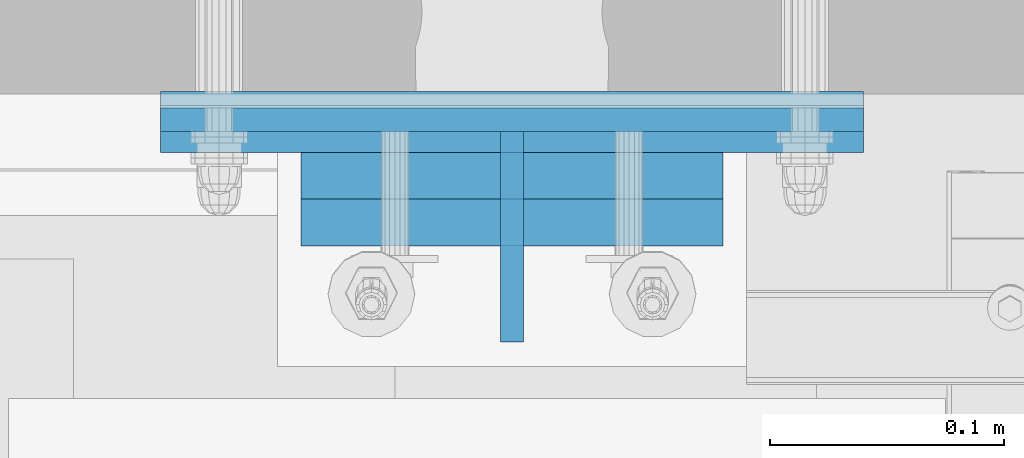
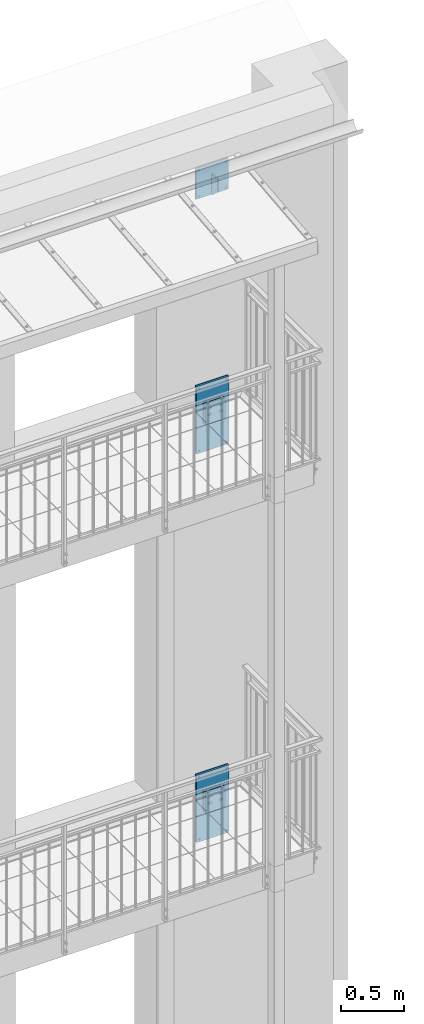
# One storey, part 65 of 162: 10 plates, 54 openings.
"""IFC2X3 building model written with IfcOpenShell, lengths in millimetres."""

import ifcopenshell
import ifcopenshell.guid

model = None  # the IFC model being written
_history = None  # IfcOwnerHistory: only IFC2X3 demands one
_inside = {}  # id of a spatial element -> (the spatial element, [elements in it])
_under = {}  # id of a project, library or spatial element -> (it, [spatial elements below it])
_declared = {}  # id of a project -> (the project, [libraries it declares])
_typed = {}  # id of a type object -> (the type object, [elements of that type])
_made_of = {}  # id of a material, layer set ... -> (it, [elements and type objects made of it])


def new_model(schema):
    """Start an empty IFC model of exactly this schema.

    Asked for "IFC4X3", IfcOpenShell would pick the latest addendum, in which some entities
    have other attributes; the version numbers below select the first issue.
    IFC2X3 requires an IfcOwnerHistory on every rooted entity: one is made here for all.
    """
    global model, _history
    if schema == "IFC4X3":
        model = ifcopenshell.file(schema_version=(4, 3, 0, 0))
    else:
        model = ifcopenshell.file(schema=schema)
    _inside.clear()
    _under.clear()
    _declared.clear()
    _typed.clear()
    _made_of.clear()
    _history = None
    if model.schema == "IFC2X3":
        org = make("IfcOrganization", Name="unknown")
        user = make(
            "IfcPersonAndOrganization",
            ThePerson=make("IfcPerson", FamilyName="unknown"),
            TheOrganization=org,
        )
        app = make(
            "IfcApplication",
            ApplicationDeveloper=org,
            Version="unknown",
            ApplicationFullName="unknown",
            ApplicationIdentifier="unknown",
        )
        _history = make(
            "IfcOwnerHistory",
            OwningUser=user,
            OwningApplication=app,
            ChangeAction="ADDED",
            CreationDate=0,
        )
    return model


def make(cls, **values):
    """One entity of the class cls with the attributes given. An attribute that is None is left unset."""
    return model.create_entity(
        cls, **{name: value for name, value in values.items() if value is not None}
    )


def entity(cls, *values):
    """Any entity or typed value of the class cls, its attributes in the order of the schema. None: left unset."""
    e = model.create_entity(cls)
    for i, value in enumerate(values):
        if value is not None:
            e[i] = value
    return e


def rooted(cls, **values):
    """An entity with a GlobalId (a new one), such as an element, a storey or a relation."""
    return make(cls, GlobalId=ifcopenshell.guid.new(), OwnerHistory=_history, **values)


def si_unit(unit_type, name, prefix=None):
    """IfcSIUnit, for example si_unit("LENGTHUNIT", "METRE", prefix="MILLI")."""
    return make("IfcSIUnit", UnitType=unit_type, Prefix=prefix, Name=name)


def converted_unit(unit_type, name, factor, base, dimensions=None, offset=None):
    """IfcConversionBasedUnit, such as the inch: factor (a typed value) times the base unit."""
    return make(
        "IfcConversionBasedUnit"
        if offset is None
        else "IfcConversionBasedUnitWithOffset",
        ConversionOffset=offset,
        Dimensions=None
        if dimensions is None
        else entity("IfcDimensionalExponents", *dimensions),
        UnitType=unit_type,
        Name=name,
        ConversionFactor=make(
            "IfcMeasureWithUnit", ValueComponent=factor, UnitComponent=base
        ),
    )


def assignment(units):
    """IfcUnitAssignment: the units of a project."""
    return None if units is None else make("IfcUnitAssignment", Units=units)


def point(xyz):
    """IfcCartesianPoint."""
    return None if xyz is None else make("IfcCartesianPoint", Coordinates=xyz)


def direction(xyz):
    """IfcDirection."""
    return None if xyz is None else make("IfcDirection", DirectionRatios=xyz)


def frame(location, z_axis=None, x_axis=None):
    """IfcAxis2Placement3D, a coordinate frame: its origin and axes. An axis left out is left unset."""
    return make(
        "IfcAxis2Placement3D",
        Location=point(location),
        Axis=direction(z_axis),
        RefDirection=direction(x_axis),
    )


def frame_2d(location, x_axis=None):
    """IfcAxis2Placement2D, a coordinate frame in the plane: its origin and x axis."""
    return make(
        "IfcAxis2Placement2D", Location=point(location), RefDirection=direction(x_axis)
    )


def origin():
    """The frame at (0, 0, 0) with its axes left unset."""
    return frame((0.0, 0.0, 0.0))


def origin_with_axes():
    """The frame at (0, 0, 0) with the z axis (0, 0, 1) and the x axis (1, 0, 0) written out."""
    return frame((0.0, 0.0, 0.0), z_axis=(0.0, 0.0, 1.0), x_axis=(1.0, 0.0, 0.0))


def place(relative_to, where):
    """IfcLocalPlacement: puts the frame where relative to a parent placement (None: the world)."""
    return make(
        "IfcLocalPlacement", PlacementRelTo=relative_to, RelativePlacement=where
    )


def context(
    kind, dimensions, precision=None, world=None, true_north=None, identifier=None
):
    """IfcGeometricRepresentationContext, for example the 3D "Model" context."""
    return make(
        "IfcGeometricRepresentationContext",
        ContextIdentifier=identifier,
        ContextType=kind,
        CoordinateSpaceDimension=dimensions,
        Precision=precision,
        WorldCoordinateSystem=world,
        TrueNorth=true_north,
    )


def project(units=None, contexts=None):
    """IfcProject with its units and contexts."""
    return rooted(
        "IfcProject",
        Name="project",
        RepresentationContexts=contexts,
        UnitsInContext=assignment(units),
    )


def spatial(cls, under=None, at=None, **own):
    """A site, building, storey or space (cls), placed at a placement, below another one or the project."""
    s = rooted(cls, ObjectPlacement=at, **own)
    if under is not None:
        _under.setdefault(under.id(), (under, []))[1].append(s)
    return s


def polyline(points):
    """IfcPolyline through the points."""
    return make("IfcPolyline", Points=[point(p) for p in points])


def circle_curve(where, radius):
    """IfcCircle in the frame where."""
    return make("IfcCircle", Position=where, Radius=radius)


def line_curve(start, along, magnitude):
    """IfcLine from a point along a vector."""
    return make(
        "IfcLine",
        Pnt=point(start),
        Dir=make("IfcVector", Orientation=direction(along), Magnitude=magnitude),
    )


def trimmed(basis, trim1, trim2, sense, master):
    """IfcTrimmedCurve: the piece of a basis curve between two trims."""
    return make(
        "IfcTrimmedCurve",
        BasisCurve=basis,
        Trim1=trim1,
        Trim2=trim2,
        SenseAgreement=sense,
        MasterRepresentation=master,
    )


def segment(curve, same_sense, transition):
    """IfcCompositeCurveSegment."""
    return make(
        "IfcCompositeCurveSegment",
        Transition=transition,
        SameSense=same_sense,
        ParentCurve=curve,
    )


def composite_curve(segments, self_intersect=None):
    """IfcCompositeCurve: segments joined end to end."""
    return make("IfcCompositeCurve", Segments=segments, SelfIntersect=self_intersect)


def profile(cls, at=None, kind="AREA", **sizes):
    """A parametric profile (cls). Its sizes go by their IFC names, for example OverallWidth=200.0."""
    return make(cls, ProfileType=kind, Position=at, **sizes)


def circle(**sizes):
    """IfcCircleProfileDef."""
    return profile("IfcCircleProfileDef", **sizes)


def outline(outer, holes=None, kind="AREA"):
    """IfcArbitraryClosedProfileDef: a profile drawn as a closed curve; with holes, ...WithVoids."""
    if holes is None:
        return make("IfcArbitraryClosedProfileDef", ProfileType=kind, OuterCurve=outer)
    return make(
        "IfcArbitraryProfileDefWithVoids",
        ProfileType=kind,
        OuterCurve=outer,
        InnerCurves=holes,
    )


def extrude(swept, where, along, depth):
    """IfcExtrudedAreaSolid: the profile swept, set in the frame where, extruded along a direction by depth."""
    return make(
        "IfcExtrudedAreaSolid",
        SweptArea=swept,
        Position=where,
        ExtrudedDirection=direction(along),
        Depth=depth,
    )


def shape(context_of_items, identifier, shape_type, items):
    """IfcShapeRepresentation: the items that make up one representation, for example the "Body"."""
    return make(
        "IfcShapeRepresentation",
        ContextOfItems=context_of_items,
        RepresentationIdentifier=identifier,
        RepresentationType=shape_type,
        Items=items,
    )


def material(Name=None, Category=None):
    """IfcMaterial."""
    return make("IfcMaterial", Name=Name, Category=Category)


def layer(
    of_material, thickness, ventilated=None, Name=None, Category=None, Priority=None
):
    """IfcMaterialLayer: one layer of a wall or slab, of a material (None: an air gap)."""
    return make(
        "IfcMaterialLayer",
        Material=of_material,
        LayerThickness=thickness,
        IsVentilated=ventilated,
        Name=Name,
        Category=Category,
        Priority=Priority,
    )


def layer_set(layers, Name=None):
    """IfcMaterialLayerSet."""
    return make("IfcMaterialLayerSet", MaterialLayers=layers, LayerSetName=Name)


def made_of(thing, what):
    """Note that an element or type object is made of a material, layer set ...; save() writes the relation."""
    if what is not None:
        _made_of.setdefault(what.id(), (what, []))[1].append(thing)
    return thing


def element(
    cls,
    number,
    at=None,
    inside=None,
    cuts=None,
    type_object=None,
    material=None,
    context=None,
    identifier="Body",
    shape_type=None,
    held_by="IfcProductDefinitionShape",
    body=None,
    shapes=None,
    **own,
):
    """One element of the class cls, such as IfcWall. Its Tag is "e" and its number.

    at: its placement. inside: the storey or other place that contains it. cuts: it is an
    opening in that element (IfcRelVoidsElement). A single representation is given by context,
    identifier, shape_type and body (its items); several are given by shapes. held_by: the class
    of the entity that holds the representations. save() writes the other relations.
    """
    e = rooted(cls, Tag="e%d" % number, ObjectPlacement=at, **own)
    if body is not None:
        shapes = [shape(context, identifier, shape_type, body)]
    if shapes is not None:
        e.Representation = make(held_by, Representations=shapes)
    if inside is not None:
        _inside.setdefault(inside.id(), (inside, []))[1].append(e)
    if cuts is not None:
        rooted(
            "IfcRelVoidsElement", RelatingBuildingElement=cuts, RelatedOpeningElement=e
        )
    if type_object is not None:
        _typed.setdefault(type_object.id(), (type_object, []))[1].append(e)
    return made_of(e, material)


def aggregate(whole, parts):
    """IfcRelAggregates: a whole, such as a stair, and the parts it consists of."""
    return rooted("IfcRelAggregates", RelatingObject=whole, RelatedObjects=parts)


def save(model, path):
    """Write the relations noted so far, then the file.

    IfcRelAggregates (storeys below a building ...), IfcRelContainedInSpatialStructure (elements
    in a storey), IfcRelDefinesByType, IfcRelAssociatesMaterial and IfcRelDeclares: one each for
    every whole, place, type object, material and project.
    """
    for whole, parts in _under.values():
        aggregate(whole, parts)
    for where, things in _inside.values():
        rooted(
            "IfcRelContainedInSpatialStructure",
            RelatedElements=things,
            RelatingStructure=where,
        )
    for kind, things in _typed.values():
        rooted("IfcRelDefinesByType", RelatedObjects=things, RelatingType=kind)
    for what, things in _made_of.values():
        rooted("IfcRelAssociatesMaterial", RelatedObjects=things, RelatingMaterial=what)
    for by, libraries in _declared.values():
        rooted("IfcRelDeclares", RelatingContext=by, RelatedDefinitions=libraries)
    model.write(path)


model = new_model("IFC2X3")

# Units and contexts
model_context = context("Model", 3, precision=1e-09, world=origin_with_axes())
ifc_project = project(units=[si_unit("LENGTHUNIT", "METRE", prefix="MILLI"), si_unit("AREAUNIT", "SQUARE_METRE"), si_unit("VOLUMEUNIT", "CUBIC_METRE"), converted_unit("PLANEANGLEUNIT", "DEGREE", entity("IfcPlaneAngleMeasure", 0.01745329), si_unit("PLANEANGLEUNIT", "RADIAN"), dimensions=[0, 0, 0, 0, 0, 0, 0])], contexts=[model_context])

# Site, building, storey
site_placement = place(None, origin_with_axes())
site = spatial("IfcSite", under=ifc_project, at=site_placement, Name="Hermannstra?e 1a, 60318 Frankfurt", CompositionType="ELEMENT")
building_placement = place(site_placement, origin_with_axes())
building = spatial("IfcBuilding", under=site, at=building_placement, Name="Struktur 1", CompositionType="ELEMENT")
storey_placement = place(building_placement, origin_with_axes())
storey = spatial("IfcBuildingStorey", under=building, at=storey_placement, Name="Default Storey", CompositionType="ELEMENT", Elevation=0.0)

# Plate, openings
ifc_material_1 = material(Name="S235JR")
ifc_layer_1 = layer(ifc_material_1, 10.0)
ifc_layer_set_1 = layer_set([ifc_layer_1], Name="S235JR")
plate_1_placement = place(None, frame((5578.309364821, 2674.609373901, 17294.041049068), z_axis=(1.0, 0.0, 0.0), x_axis=(0.0, 1.0, 0.0)))
plate_1 = element("IfcPlate", 1, at=plate_1_placement, inside=storey, material=ifc_layer_set_1, Name="-", ObjectType="-", context=model_context, shape_type="SweptSolid", body=[
    extrude(outline(polyline([(-45.0, -102.042049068), (45.0, -102.042049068), (45.0, 102.042049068), (-45.0, 92.582667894), (-45.0, -102.042049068)])), origin_with_axes(), (0.0, 0.0, -1.0), 10.0),
])
opening_1_placement = place(plate_1_placement, frame((-45.0, -102.042049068, 0.01), z_axis=(0.0, 0.0, 1.0), x_axis=(1.0, 0.0, 0.0)))
element("IfcOpeningElement", 2, at=opening_1_placement, cuts=plate_1, ObjectType="Opening", context=model_context, shape_type="SweptSolid", body=[
    extrude(outline(polyline([(0.0, 0.0), (80.0, 0.0), (0.0, 80.0), (0.0, 0.0)])), origin(), (0.0, 0.0, -1.0), 10.02),
])
opening_2_placement = place(plate_1_placement, frame((27.999, 90.042049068, 0.5), z_axis=(0.0, 0.0, 1.0), x_axis=(1.0, 0.0, 0.0)))
element("IfcOpeningElement", 3, at=opening_2_placement, cuts=plate_1, ObjectType="Opening", context=model_context, shape_type="SweptSolid", body=[
    extrude(circle(Radius=6.001, at=frame_2d((6.001, 0.0), x_axis=(1.0, 0.0))), origin(), (0.0, 0.0, -1.0), 11.0),
])

plate_2_placement = place(None, frame((5573.309364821, 2729.609373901, 17341.999), z_axis=(0.0, 1.0, 0.0), x_axis=(-1.0, 0.0, 0.0)))
plate_2 = element("IfcPlate", 4, at=plate_2_placement, inside=storey, material=ifc_layer_set_1, Name="-", ObjectType="-", context=model_context, shape_type="SweptSolid", body=[
    extrude(outline(polyline([(-150.0, -150.0), (150.0, -150.0), (150.0, 150.0), (-150.0, 150.0), (-150.0, -150.0)])), origin_with_axes(), (0.0, 0.0, -1.0), 10.0),
])
opening_3_placement = place(plate_2_placement, frame((116.999, 125.0, 0.5), z_axis=(0.0, 0.0, 1.0), x_axis=(1.0, 0.0, 0.0)))
element("IfcOpeningElement", 5, at=opening_3_placement, cuts=plate_2, ObjectType="Opening", context=model_context, shape_type="SweptSolid", body=[
    extrude(circle(Radius=8.001, at=frame_2d((8.001, 0.0), x_axis=(1.0, 0.0))), origin(), (0.0, 0.0, -1.0), 11.0),
])
opening_4_placement = place(plate_2_placement, frame((-133.001, 125.0, 0.5), z_axis=(0.0, 0.0, 1.0), x_axis=(1.0, 0.0, 0.0)))
element("IfcOpeningElement", 6, at=opening_4_placement, cuts=plate_2, ObjectType="Opening", context=model_context, shape_type="SweptSolid", body=[
    extrude(circle(Radius=8.001, at=frame_2d((8.001, 0.0), x_axis=(1.0, 0.0))), origin(), (0.0, 0.0, -1.0), 11.0),
])
opening_5_placement = place(plate_2_placement, frame((116.999, -125.0, 0.5), z_axis=(0.0, 0.0, 1.0), x_axis=(1.0, 0.0, 0.0)))
element("IfcOpeningElement", 7, at=opening_5_placement, cuts=plate_2, ObjectType="Opening", context=model_context, shape_type="SweptSolid", body=[
    extrude(circle(Radius=8.001, at=frame_2d((8.001, 0.0), x_axis=(1.0, 0.0))), origin(), (0.0, 0.0, -1.0), 11.0),
])
opening_6_placement = place(plate_2_placement, frame((-133.001, -125.0, 0.5), z_axis=(0.0, 0.0, 1.0), x_axis=(1.0, 0.0, 0.0)))
element("IfcOpeningElement", 8, at=opening_6_placement, cuts=plate_2, ObjectType="Opening", context=model_context, shape_type="SweptSolid", body=[
    extrude(circle(Radius=8.001, at=frame_2d((8.001, 0.0), x_axis=(1.0, 0.0))), origin(), (0.0, 0.0, -1.0), 11.0),
])

# Plate, opening
ifc_layer_2 = layer(ifc_material_1, 20.0)
ifc_layer_set_2 = layer_set([ifc_layer_2], Name="S235JR")
plate_3_placement = place(None, frame((5573.30936482, 2710.609373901, 11364.999), z_axis=(0.0, -1.0, 0.0), x_axis=(1.0, 0.0, 0.0)))
plate_3 = element("IfcPlate", 9, at=plate_3_placement, inside=storey, material=ifc_layer_set_2, Name="-", ObjectType="-", context=model_context, shape_type="SweptSolid", body=[
    extrude(outline(polyline([(-90.0, -100.0), (90.0, -100.0), (90.0, 100.0), (-90.0, 100.0), (-90.0, -100.0)])), origin_with_axes(), (0.0, 0.0, 1.0), 20.0),
])
opening_7_placement = place(plate_3_placement, frame((0.0, -65.0, -0.5), z_axis=(0.0, 0.0, 1.0), x_axis=(1.0, 0.0, 0.0)))
element("IfcOpeningElement", 10, at=opening_7_placement, cuts=plate_3, ObjectType="Opening", context=model_context, shape_type="SweptSolid", body=[
    extrude(circle(Radius=15.001, at=frame_2d((0.0, -10.0), x_axis=(1.0, 0.0))), origin(), (0.0, 0.0, 1.0), 21.0),
])

# Plate, openings
plate_4_placement = place(None, frame((5573.30936482, 2690.609373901, 11364.999), z_axis=(0.0, -1.0, 0.0), x_axis=(1.0, 0.0, 0.0)))
plate_4 = element("IfcPlate", 11, at=plate_4_placement, inside=storey, material=ifc_layer_set_2, Name="-", ObjectType="-", context=model_context, shape_type="SweptSolid", body=[
    extrude(outline(polyline([(-90.0, -100.0), (90.0, -100.0), (90.0, 100.0), (-90.0, 100.0), (-90.0, -100.0)])), origin_with_axes(), (0.0, 0.0, 1.0), 20.0),
])
opening_8_placement = place(plate_4_placement, frame((-2e-08, 19.999999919, -0.5), z_axis=(0.0, 0.0, 1.0), x_axis=(1.0, 0.0, 0.0)))
element("IfcOpeningElement", 12, at=opening_8_placement, cuts=plate_4, ObjectType="Opening", context=model_context, shape_type="SweptSolid", body=[
    extrude(outline(composite_curve([segment(trimmed(line_curve((41.5, 20.999), (1.0, 0.0), 17.0), [point((41.5, 20.999))], [point((58.5, 20.999))], True, "CARTESIAN"), True, "CONTINUOUS"), segment(trimmed(circle_curve(frame_2d((58.5, 30.0), x_axis=(1.0, 0.0)), 9.001), [point((58.5, 20.999))], [point((58.5, 39.001))], True, "CARTESIAN"), True, "CONTINUOUS"), segment(trimmed(line_curve((58.5, 39.001), (-1.0, 0.0), 17.0), [point((58.5, 39.001))], [point((41.5, 39.001))], True, "CARTESIAN"), True, "CONTINUOUS"), segment(trimmed(circle_curve(frame_2d((41.5, 30.0), x_axis=(1.0, 0.0)), 9.001), [point((41.5, 39.001))], [point((41.5, 20.999))], True, "CARTESIAN"), True, "CONTINUOUS")], self_intersect=False)), origin(), (0.0, 0.0, 1.0), 21.0),
])
opening_9_placement = place(plate_4_placement, frame((-2e-08, 19.999999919, -0.5), z_axis=(0.0, 0.0, 1.0), x_axis=(1.0, 0.0, 0.0)))
element("IfcOpeningElement", 13, at=opening_9_placement, cuts=plate_4, ObjectType="Opening", context=model_context, shape_type="SweptSolid", body=[
    extrude(outline(composite_curve([segment(trimmed(line_curve((-58.5, 20.999), (1.0, 0.0), 17.0), [point((-58.5, 20.999))], [point((-41.5, 20.999))], True, "CARTESIAN"), True, "CONTINUOUS"), segment(trimmed(circle_curve(frame_2d((-41.5, 30.0), x_axis=(1.0, 0.0)), 9.001), [point((-41.5, 20.999))], [point((-41.5, 39.001))], True, "CARTESIAN"), True, "CONTINUOUS"), segment(trimmed(line_curve((-41.5, 39.001), (-1.0, 0.0), 17.0), [point((-41.5, 39.001))], [point((-58.5, 39.001))], True, "CARTESIAN"), True, "CONTINUOUS"), segment(trimmed(circle_curve(frame_2d((-58.5, 30.0), x_axis=(1.0, 0.0)), 9.001), [point((-58.5, 39.001))], [point((-58.5, 20.999))], True, "CARTESIAN"), True, "CONTINUOUS")], self_intersect=False)), origin(), (0.0, 0.0, 1.0), 21.0),
])
opening_10_placement = place(plate_4_placement, frame((-2e-08, 19.999999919, -0.5), z_axis=(0.0, 0.0, 1.0), x_axis=(1.0, 0.0, 0.0)))
element("IfcOpeningElement", 14, at=opening_10_placement, cuts=plate_4, ObjectType="Opening", context=model_context, shape_type="SweptSolid", body=[
    extrude(outline(composite_curve([segment(trimmed(line_curve((41.5, -39.001), (1.0, 0.0), 17.0), [point((41.5, -39.001))], [point((58.5, -39.001))], True, "CARTESIAN"), True, "CONTINUOUS"), segment(trimmed(circle_curve(frame_2d((58.5, -30.0), x_axis=(1.0, 0.0)), 9.001), [point((58.5, -39.001))], [point((58.5, -20.999))], True, "CARTESIAN"), True, "CONTINUOUS"), segment(trimmed(line_curve((58.5, -20.999), (-1.0, 0.0), 17.0), [point((58.5, -20.999))], [point((41.5, -20.999))], True, "CARTESIAN"), True, "CONTINUOUS"), segment(trimmed(circle_curve(frame_2d((41.5, -30.0), x_axis=(1.0, 0.0)), 9.001), [point((41.5, -20.999))], [point((41.5, -39.001))], True, "CARTESIAN"), True, "CONTINUOUS")], self_intersect=False)), origin(), (0.0, 0.0, 1.0), 21.0),
])
opening_11_placement = place(plate_4_placement, frame((-2e-08, 19.999999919, -0.5), z_axis=(0.0, 0.0, 1.0), x_axis=(1.0, 0.0, 0.0)))
element("IfcOpeningElement", 15, at=opening_11_placement, cuts=plate_4, ObjectType="Opening", context=model_context, shape_type="SweptSolid", body=[
    extrude(outline(composite_curve([segment(trimmed(line_curve((-58.5, -39.001), (1.0, 0.0), 17.0), [point((-58.5, -39.001))], [point((-41.5, -39.001))], True, "CARTESIAN"), True, "CONTINUOUS"), segment(trimmed(circle_curve(frame_2d((-41.5, -30.0), x_axis=(1.0, 0.0)), 9.001), [point((-41.5, -39.001))], [point((-41.5, -20.999))], True, "CARTESIAN"), True, "CONTINUOUS"), segment(trimmed(line_curve((-41.5, -20.999), (-1.0, 0.0), 17.0), [point((-41.5, -20.999))], [point((-58.5, -20.999))], True, "CARTESIAN"), True, "CONTINUOUS"), segment(trimmed(circle_curve(frame_2d((-58.5, -30.0), x_axis=(1.0, 0.0)), 9.001), [point((-58.5, -20.999))], [point((-58.5, -39.001))], True, "CARTESIAN"), True, "CONTINUOUS")], self_intersect=False)), origin(), (0.0, 0.0, 1.0), 21.0),
])

plate_5_placement = place(None, frame((5573.30936482, 2730.609373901, 11304.999), z_axis=(0.0, -1.0, 0.0), x_axis=(1.0, 0.0, 0.0)))
plate_5 = element("IfcPlate", 16, at=plate_5_placement, inside=storey, material=ifc_layer_set_2, Name="-", ObjectType="-", context=model_context, shape_type="SweptSolid", body=[
    extrude(outline(polyline([(-150.0, -325.0), (150.0, -325.0), (150.0, 325.0), (-150.0, 325.0), (-150.0, -325.0)])), origin_with_axes(), (0.0, 0.0, 1.0), 20.0),
])
opening_12_placement = place(plate_5_placement, frame((0.0, 0.0, -0.5), z_axis=(0.0, 0.0, 1.0), x_axis=(1.0, 0.0, 0.0)))
element("IfcOpeningElement", 17, at=opening_12_placement, cuts=plate_5, ObjectType="Opening", context=model_context, shape_type="SweptSolid", body=[
    extrude(circle(Radius=8.001, at=frame_2d((125.0, 300.0), x_axis=(1.0, 0.0))), origin(), (0.0, 0.0, 1.0), 21.0),
])
opening_13_placement = place(plate_5_placement, frame((0.0, 0.0, -0.5), z_axis=(0.0, 0.0, 1.0), x_axis=(1.0, 0.0, 0.0)))
element("IfcOpeningElement", 18, at=opening_13_placement, cuts=plate_5, ObjectType="Opening", context=model_context, shape_type="SweptSolid", body=[
    extrude(circle(Radius=8.001, at=frame_2d((-125.0, 300.0), x_axis=(1.0, 0.0))), origin(), (0.0, 0.0, 1.0), 21.0),
])
opening_14_placement = place(plate_5_placement, frame((0.0, 0.0, -0.5), z_axis=(0.0, 0.0, 1.0), x_axis=(1.0, 0.0, 0.0)))
element("IfcOpeningElement", 19, at=opening_14_placement, cuts=plate_5, ObjectType="Opening", context=model_context, shape_type="SweptSolid", body=[
    extrude(circle(Radius=8.001, at=frame_2d((125.0, -300.0), x_axis=(1.0, 0.0))), origin(), (0.0, 0.0, 1.0), 21.0),
])
opening_15_placement = place(plate_5_placement, frame((0.0, 0.0, -0.5), z_axis=(0.0, 0.0, 1.0), x_axis=(1.0, 0.0, 0.0)))
element("IfcOpeningElement", 20, at=opening_15_placement, cuts=plate_5, ObjectType="Opening", context=model_context, shape_type="SweptSolid", body=[
    extrude(circle(Radius=8.001, at=frame_2d((-125.0, -300.0), x_axis=(1.0, 0.0))), origin(), (0.0, 0.0, 1.0), 21.0),
])
opening_16_placement = place(plate_5_placement, frame((0.0, 325.0, -0.5), z_axis=(0.0, 0.0, 1.0), x_axis=(1.0, 0.0, 0.0)))
element("IfcOpeningElement", 21, at=opening_16_placement, cuts=plate_5, ObjectType="Opening", context=model_context, shape_type="SweptSolid", body=[
    extrude(circle(Radius=11.001, at=frame_2d((50.0, -215.0), x_axis=(1.0, 0.0))), origin(), (0.0, 0.0, 1.0), 21.0),
])
opening_17_placement = place(plate_5_placement, frame((0.0, 325.0, -0.5), z_axis=(0.0, 0.0, 1.0), x_axis=(1.0, 0.0, 0.0)))
element("IfcOpeningElement", 22, at=opening_17_placement, cuts=plate_5, ObjectType="Opening", context=model_context, shape_type="SweptSolid", body=[
    extrude(circle(Radius=11.001, at=frame_2d((-50.0, -215.0), x_axis=(1.0, 0.0))), origin(), (0.0, 0.0, 1.0), 21.0),
])
opening_18_placement = place(plate_5_placement, frame((0.0, 325.0, -0.5), z_axis=(0.0, 0.0, 1.0), x_axis=(1.0, 0.0, 0.0)))
element("IfcOpeningElement", 23, at=opening_18_placement, cuts=plate_5, ObjectType="Opening", context=model_context, shape_type="SweptSolid", body=[
    extrude(circle(Radius=11.001, at=frame_2d((50.0, -275.0), x_axis=(1.0, 0.0))), origin(), (0.0, 0.0, 1.0), 21.0),
])
opening_19_placement = place(plate_5_placement, frame((0.0, 325.0, -0.5), z_axis=(0.0, 0.0, 1.0), x_axis=(1.0, 0.0, 0.0)))
element("IfcOpeningElement", 24, at=opening_19_placement, cuts=plate_5, ObjectType="Opening", context=model_context, shape_type="SweptSolid", body=[
    extrude(circle(Radius=11.001, at=frame_2d((-50.0, -275.0), x_axis=(1.0, 0.0))), origin(), (0.0, 0.0, 1.0), 21.0),
])
opening_20_placement = place(plate_5_placement, frame((0.0, -5.0, -0.5), z_axis=(0.0, 0.0, 1.0), x_axis=(1.0, 0.0, 0.0)))
element("IfcOpeningElement", 25, at=opening_20_placement, cuts=plate_5, ObjectType="Opening", context=model_context, shape_type="SweptSolid", body=[
    extrude(circle(Radius=15.001, at=frame_2d((0.0, -10.0), x_axis=(1.0, 0.0))), origin(), (0.0, 0.0, 1.0), 21.0),
])

ifc_material_2 = material(Name="Thermostop")
ifc_layer_3 = layer(ifc_material_2, 6.0)
ifc_layer_set_3 = layer_set([ifc_layer_3], Name="Thermostop")
plate_6_placement = place(None, frame((5573.30936482, 2736.609373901, 11304.999), z_axis=(0.0, -1.0, 0.0), x_axis=(1.0, 0.0, 0.0)))
plate_6 = element("IfcPlate", 26, at=plate_6_placement, inside=storey, material=ifc_layer_set_3, Name="-", ObjectType="-", context=model_context, shape_type="SweptSolid", body=[
    extrude(outline(polyline([(-150.0, -325.0), (150.0, -325.0), (150.0, 325.0), (-150.0, 325.0), (-150.0, -325.0)])), origin_with_axes(), (0.0, 0.0, 1.0), 6.0),
])
opening_21_placement = place(plate_6_placement, frame((0.0, 0.0, -0.5), z_axis=(0.0, 0.0, 1.0), x_axis=(1.0, 0.0, 0.0)))
element("IfcOpeningElement", 27, at=opening_21_placement, cuts=plate_6, ObjectType="Opening", context=model_context, shape_type="SweptSolid", body=[
    extrude(circle(Radius=10.001, at=frame_2d((125.0, 300.0), x_axis=(1.0, 0.0))), origin(), (0.0, 0.0, 1.0), 7.0),
])
opening_22_placement = place(plate_6_placement, frame((0.0, 0.0, -0.5), z_axis=(0.0, 0.0, 1.0), x_axis=(1.0, 0.0, 0.0)))
element("IfcOpeningElement", 28, at=opening_22_placement, cuts=plate_6, ObjectType="Opening", context=model_context, shape_type="SweptSolid", body=[
    extrude(circle(Radius=10.001, at=frame_2d((-125.0, 300.0), x_axis=(1.0, 0.0))), origin(), (0.0, 0.0, 1.0), 7.0),
])
opening_23_placement = place(plate_6_placement, frame((0.0, 0.0, -0.5), z_axis=(0.0, 0.0, 1.0), x_axis=(1.0, 0.0, 0.0)))
element("IfcOpeningElement", 29, at=opening_23_placement, cuts=plate_6, ObjectType="Opening", context=model_context, shape_type="SweptSolid", body=[
    extrude(circle(Radius=10.001, at=frame_2d((125.0, -300.0), x_axis=(1.0, 0.0))), origin(), (0.0, 0.0, 1.0), 7.0),
])
opening_24_placement = place(plate_6_placement, frame((0.0, 0.0, -0.5), z_axis=(0.0, 0.0, 1.0), x_axis=(1.0, 0.0, 0.0)))
element("IfcOpeningElement", 30, at=opening_24_placement, cuts=plate_6, ObjectType="Opening", context=model_context, shape_type="SweptSolid", body=[
    extrude(circle(Radius=10.001, at=frame_2d((-125.0, -300.0), x_axis=(1.0, 0.0))), origin(), (0.0, 0.0, 1.0), 7.0),
])
opening_25_placement = place(plate_6_placement, frame((0.0, -40.0, -0.5), z_axis=(0.0, 0.0, 1.0), x_axis=(1.0, 0.0, 0.0)))
element("IfcOpeningElement", 31, at=opening_25_placement, cuts=plate_6, ObjectType="Opening", context=model_context, shape_type="SweptSolid", body=[
    extrude(circle(Radius=11.001, at=frame_2d((50.0, 150.0), x_axis=(1.0, 0.0))), origin(), (0.0, 0.0, 1.0), 7.0),
])
opening_26_placement = place(plate_6_placement, frame((0.0, -40.0, -0.5), z_axis=(0.0, 0.0, 1.0), x_axis=(1.0, 0.0, 0.0)))
element("IfcOpeningElement", 32, at=opening_26_placement, cuts=plate_6, ObjectType="Opening", context=model_context, shape_type="SweptSolid", body=[
    extrude(circle(Radius=11.001, at=frame_2d((-50.0, 150.0), x_axis=(1.0, 0.0))), origin(), (0.0, 0.0, 1.0), 7.0),
])
opening_27_placement = place(plate_6_placement, frame((0.0, -40.0, -0.5), z_axis=(0.0, 0.0, 1.0), x_axis=(1.0, 0.0, 0.0)))
element("IfcOpeningElement", 33, at=opening_27_placement, cuts=plate_6, ObjectType="Opening", context=model_context, shape_type="SweptSolid", body=[
    extrude(circle(Radius=11.001, at=frame_2d((50.0, 90.0), x_axis=(1.0, 0.0))), origin(), (0.0, 0.0, 1.0), 7.0),
])
opening_28_placement = place(plate_6_placement, frame((0.0, -40.0, -0.5), z_axis=(0.0, 0.0, 1.0), x_axis=(1.0, 0.0, 0.0)))
element("IfcOpeningElement", 34, at=opening_28_placement, cuts=plate_6, ObjectType="Opening", context=model_context, shape_type="SweptSolid", body=[
    extrude(circle(Radius=11.001, at=frame_2d((-50.0, 90.0), x_axis=(1.0, 0.0))), origin(), (0.0, 0.0, 1.0), 7.0),
])
opening_29_placement = place(plate_6_placement, frame((0.0, -125.0, -0.5), z_axis=(0.0, 0.0, 1.0), x_axis=(1.0, 0.0, 0.0)))
element("IfcOpeningElement", 35, at=opening_29_placement, cuts=plate_6, ObjectType="Opening", context=model_context, shape_type="SweptSolid", body=[
    extrude(circle(Radius=50.001, at=frame_2d((0.0, -10.0), x_axis=(1.0, 0.0))), origin(), (0.0, 0.0, 1.0), 7.0),
])
opening_30_placement = place(plate_6_placement, frame((0.0, -325.0, -0.5), z_axis=(0.0, 0.0, 1.0), x_axis=(1.0, 0.0, 0.0)))
element("IfcOpeningElement", 36, at=opening_30_placement, cuts=plate_6, ObjectType="Opening", context=model_context, shape_type="SweptSolid", body=[
    extrude(circle(Radius=15.001, at=frame_2d((0.0, 310.0), x_axis=(1.0, 0.0))), origin(), (0.0, 0.0, 1.0), 7.0),
])

plate_7_placement = place(None, frame((5573.310071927, 2736.610081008, 15061.999), z_axis=(0.0, -1.0, 0.0), x_axis=(1.0, 0.0, 0.0)))
plate_7 = element("IfcPlate", 37, at=plate_7_placement, inside=storey, material=ifc_layer_set_3, Name="-", ObjectType="-", context=model_context, shape_type="SweptSolid", body=[
    extrude(outline(polyline([(-150.0, -325.0), (150.0, -325.0), (150.0, 325.0), (-150.0, 325.0), (-150.0, -325.0)])), origin_with_axes(), (0.0, 0.0, 1.0), 6.0),
])
opening_31_placement = place(plate_7_placement, frame((0.0, 0.0, -0.5), z_axis=(0.0, 0.0, 1.0), x_axis=(1.0, 0.0, 0.0)))
element("IfcOpeningElement", 38, at=opening_31_placement, cuts=plate_7, ObjectType="Opening", context=model_context, shape_type="SweptSolid", body=[
    extrude(circle(Radius=10.001, at=frame_2d((125.0, 300.0), x_axis=(1.0, 0.0))), origin(), (0.0, 0.0, 1.0), 7.0),
])
opening_32_placement = place(plate_7_placement, frame((0.0, 0.0, -0.5), z_axis=(0.0, 0.0, 1.0), x_axis=(1.0, 0.0, 0.0)))
element("IfcOpeningElement", 39, at=opening_32_placement, cuts=plate_7, ObjectType="Opening", context=model_context, shape_type="SweptSolid", body=[
    extrude(circle(Radius=10.001, at=frame_2d((-125.0, 300.0), x_axis=(1.0, 0.0))), origin(), (0.0, 0.0, 1.0), 7.0),
])
opening_33_placement = place(plate_7_placement, frame((0.0, 0.0, -0.5), z_axis=(0.0, 0.0, 1.0), x_axis=(1.0, 0.0, 0.0)))
element("IfcOpeningElement", 40, at=opening_33_placement, cuts=plate_7, ObjectType="Opening", context=model_context, shape_type="SweptSolid", body=[
    extrude(circle(Radius=10.001, at=frame_2d((125.0, -300.0), x_axis=(1.0, 0.0))), origin(), (0.0, 0.0, 1.0), 7.0),
])
opening_34_placement = place(plate_7_placement, frame((0.0, 0.0, -0.5), z_axis=(0.0, 0.0, 1.0), x_axis=(1.0, 0.0, 0.0)))
element("IfcOpeningElement", 41, at=opening_34_placement, cuts=plate_7, ObjectType="Opening", context=model_context, shape_type="SweptSolid", body=[
    extrude(circle(Radius=10.001, at=frame_2d((-125.0, -300.0), x_axis=(1.0, 0.0))), origin(), (0.0, 0.0, 1.0), 7.0),
])
opening_35_placement = place(plate_7_placement, frame((0.0, -40.0, -0.5), z_axis=(0.0, 0.0, 1.0), x_axis=(1.0, 0.0, 0.0)))
element("IfcOpeningElement", 42, at=opening_35_placement, cuts=plate_7, ObjectType="Opening", context=model_context, shape_type="SweptSolid", body=[
    extrude(circle(Radius=11.001, at=frame_2d((50.0, 150.0), x_axis=(1.0, 0.0))), origin(), (0.0, 0.0, 1.0), 7.0),
])
opening_36_placement = place(plate_7_placement, frame((0.0, -40.0, -0.5), z_axis=(0.0, 0.0, 1.0), x_axis=(1.0, 0.0, 0.0)))
element("IfcOpeningElement", 43, at=opening_36_placement, cuts=plate_7, ObjectType="Opening", context=model_context, shape_type="SweptSolid", body=[
    extrude(circle(Radius=11.001, at=frame_2d((-50.0, 150.0), x_axis=(1.0, 0.0))), origin(), (0.0, 0.0, 1.0), 7.0),
])
opening_37_placement = place(plate_7_placement, frame((0.0, -40.0, -0.5), z_axis=(0.0, 0.0, 1.0), x_axis=(1.0, 0.0, 0.0)))
element("IfcOpeningElement", 44, at=opening_37_placement, cuts=plate_7, ObjectType="Opening", context=model_context, shape_type="SweptSolid", body=[
    extrude(circle(Radius=11.001, at=frame_2d((50.0, 90.0), x_axis=(1.0, 0.0))), origin(), (0.0, 0.0, 1.0), 7.0),
])
opening_38_placement = place(plate_7_placement, frame((0.0, -40.0, -0.5), z_axis=(0.0, 0.0, 1.0), x_axis=(1.0, 0.0, 0.0)))
element("IfcOpeningElement", 45, at=opening_38_placement, cuts=plate_7, ObjectType="Opening", context=model_context, shape_type="SweptSolid", body=[
    extrude(circle(Radius=11.001, at=frame_2d((-50.0, 90.0), x_axis=(1.0, 0.0))), origin(), (0.0, 0.0, 1.0), 7.0),
])
opening_39_placement = place(plate_7_placement, frame((0.0, -125.0, -0.5), z_axis=(0.0, 0.0, 1.0), x_axis=(1.0, 0.0, 0.0)))
element("IfcOpeningElement", 46, at=opening_39_placement, cuts=plate_7, ObjectType="Opening", context=model_context, shape_type="SweptSolid", body=[
    extrude(circle(Radius=50.001, at=frame_2d((0.0, -10.0), x_axis=(1.0, 0.0))), origin(), (0.0, 0.0, 1.0), 7.0),
])
opening_40_placement = place(plate_7_placement, frame((0.0, -325.0, -0.5), z_axis=(0.0, 0.0, 1.0), x_axis=(1.0, 0.0, 0.0)))
element("IfcOpeningElement", 47, at=opening_40_placement, cuts=plate_7, ObjectType="Opening", context=model_context, shape_type="SweptSolid", body=[
    extrude(circle(Radius=15.001, at=frame_2d((0.0, 310.0), x_axis=(1.0, 0.0))), origin(), (0.0, 0.0, 1.0), 7.0),
])

plate_8_placement = place(None, frame((5573.310071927, 2730.610081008, 15061.999), z_axis=(0.0, -1.0, 0.0), x_axis=(1.0, 0.0, 0.0)))
plate_8 = element("IfcPlate", 48, at=plate_8_placement, inside=storey, material=ifc_layer_set_2, Name="-", ObjectType="-", context=model_context, shape_type="SweptSolid", body=[
    extrude(outline(polyline([(-150.0, -325.0), (150.0, -325.0), (150.0, 325.0), (-150.0, 325.0), (-150.0, -325.0)])), origin_with_axes(), (0.0, 0.0, 1.0), 20.0),
])
opening_41_placement = place(plate_8_placement, frame((0.0, 0.0, -0.5), z_axis=(0.0, 0.0, 1.0), x_axis=(1.0, 0.0, 0.0)))
element("IfcOpeningElement", 49, at=opening_41_placement, cuts=plate_8, ObjectType="Opening", context=model_context, shape_type="SweptSolid", body=[
    extrude(circle(Radius=8.001, at=frame_2d((125.0, 300.0), x_axis=(1.0, 0.0))), origin(), (0.0, 0.0, 1.0), 21.0),
])
opening_42_placement = place(plate_8_placement, frame((0.0, 0.0, -0.5), z_axis=(0.0, 0.0, 1.0), x_axis=(1.0, 0.0, 0.0)))
element("IfcOpeningElement", 50, at=opening_42_placement, cuts=plate_8, ObjectType="Opening", context=model_context, shape_type="SweptSolid", body=[
    extrude(circle(Radius=8.001, at=frame_2d((-125.0, 300.0), x_axis=(1.0, 0.0))), origin(), (0.0, 0.0, 1.0), 21.0),
])
opening_43_placement = place(plate_8_placement, frame((0.0, 0.0, -0.5), z_axis=(0.0, 0.0, 1.0), x_axis=(1.0, 0.0, 0.0)))
element("IfcOpeningElement", 51, at=opening_43_placement, cuts=plate_8, ObjectType="Opening", context=model_context, shape_type="SweptSolid", body=[
    extrude(circle(Radius=8.001, at=frame_2d((125.0, -300.0), x_axis=(1.0, 0.0))), origin(), (0.0, 0.0, 1.0), 21.0),
])
opening_44_placement = place(plate_8_placement, frame((0.0, 0.0, -0.5), z_axis=(0.0, 0.0, 1.0), x_axis=(1.0, 0.0, 0.0)))
element("IfcOpeningElement", 52, at=opening_44_placement, cuts=plate_8, ObjectType="Opening", context=model_context, shape_type="SweptSolid", body=[
    extrude(circle(Radius=8.001, at=frame_2d((-125.0, -300.0), x_axis=(1.0, 0.0))), origin(), (0.0, 0.0, 1.0), 21.0),
])
opening_45_placement = place(plate_8_placement, frame((0.0, 325.0, -0.5), z_axis=(0.0, 0.0, 1.0), x_axis=(1.0, 0.0, 0.0)))
element("IfcOpeningElement", 53, at=opening_45_placement, cuts=plate_8, ObjectType="Opening", context=model_context, shape_type="SweptSolid", body=[
    extrude(circle(Radius=11.001, at=frame_2d((50.0, -215.0), x_axis=(1.0, 0.0))), origin(), (0.0, 0.0, 1.0), 21.0),
])
opening_46_placement = place(plate_8_placement, frame((0.0, 325.0, -0.5), z_axis=(0.0, 0.0, 1.0), x_axis=(1.0, 0.0, 0.0)))
element("IfcOpeningElement", 54, at=opening_46_placement, cuts=plate_8, ObjectType="Opening", context=model_context, shape_type="SweptSolid", body=[
    extrude(circle(Radius=11.001, at=frame_2d((-50.0, -215.0), x_axis=(1.0, 0.0))), origin(), (0.0, 0.0, 1.0), 21.0),
])
opening_47_placement = place(plate_8_placement, frame((0.0, 325.0, -0.5), z_axis=(0.0, 0.0, 1.0), x_axis=(1.0, 0.0, 0.0)))
element("IfcOpeningElement", 55, at=opening_47_placement, cuts=plate_8, ObjectType="Opening", context=model_context, shape_type="SweptSolid", body=[
    extrude(circle(Radius=11.001, at=frame_2d((50.0, -275.0), x_axis=(1.0, 0.0))), origin(), (0.0, 0.0, 1.0), 21.0),
])
opening_48_placement = place(plate_8_placement, frame((0.0, 325.0, -0.5), z_axis=(0.0, 0.0, 1.0), x_axis=(1.0, 0.0, 0.0)))
element("IfcOpeningElement", 56, at=opening_48_placement, cuts=plate_8, ObjectType="Opening", context=model_context, shape_type="SweptSolid", body=[
    extrude(circle(Radius=11.001, at=frame_2d((-50.0, -275.0), x_axis=(1.0, 0.0))), origin(), (0.0, 0.0, 1.0), 21.0),
])
opening_49_placement = place(plate_8_placement, frame((0.0, -5.0, -0.5), z_axis=(0.0, 0.0, 1.0), x_axis=(1.0, 0.0, 0.0)))
element("IfcOpeningElement", 57, at=opening_49_placement, cuts=plate_8, ObjectType="Opening", context=model_context, shape_type="SweptSolid", body=[
    extrude(circle(Radius=15.001, at=frame_2d((0.0, -10.0), x_axis=(1.0, 0.0))), origin(), (0.0, 0.0, 1.0), 21.0),
])

plate_9_placement = place(None, frame((5573.310071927, 2690.610081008, 15121.999), z_axis=(0.0, -1.0, 0.0), x_axis=(1.0, 0.0, 0.0)))
plate_9 = element("IfcPlate", 58, at=plate_9_placement, inside=storey, material=ifc_layer_set_2, Name="-", ObjectType="-", context=model_context, shape_type="SweptSolid", body=[
    extrude(outline(polyline([(-90.0, -100.0), (90.0, -100.0), (90.0, 100.0), (-90.0, 100.0), (-90.0, -100.0)])), origin_with_axes(), (0.0, 0.0, 1.0), 20.0),
])
opening_50_placement = place(plate_9_placement, frame((-2e-08, 19.999999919, -0.5), z_axis=(0.0, 0.0, 1.0), x_axis=(1.0, 0.0, 0.0)))
element("IfcOpeningElement", 59, at=opening_50_placement, cuts=plate_9, ObjectType="Opening", context=model_context, shape_type="SweptSolid", body=[
    extrude(outline(composite_curve([segment(trimmed(line_curve((41.5, 20.999), (1.0, 0.0), 17.0), [point((41.5, 20.999))], [point((58.5, 20.999))], True, "CARTESIAN"), True, "CONTINUOUS"), segment(trimmed(circle_curve(frame_2d((58.5, 30.0), x_axis=(1.0, 0.0)), 9.001), [point((58.5, 20.999))], [point((58.5, 39.001))], True, "CARTESIAN"), True, "CONTINUOUS"), segment(trimmed(line_curve((58.5, 39.001), (-1.0, 0.0), 17.0), [point((58.5, 39.001))], [point((41.5, 39.001))], True, "CARTESIAN"), True, "CONTINUOUS"), segment(trimmed(circle_curve(frame_2d((41.5, 30.0), x_axis=(1.0, 0.0)), 9.001), [point((41.5, 39.001))], [point((41.5, 20.999))], True, "CARTESIAN"), True, "CONTINUOUS")], self_intersect=False)), origin(), (0.0, 0.0, 1.0), 21.0),
])
opening_51_placement = place(plate_9_placement, frame((-2e-08, 19.999999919, -0.5), z_axis=(0.0, 0.0, 1.0), x_axis=(1.0, 0.0, 0.0)))
element("IfcOpeningElement", 60, at=opening_51_placement, cuts=plate_9, ObjectType="Opening", context=model_context, shape_type="SweptSolid", body=[
    extrude(outline(composite_curve([segment(trimmed(line_curve((-58.5, 20.999), (1.0, 0.0), 17.0), [point((-58.5, 20.999))], [point((-41.5, 20.999))], True, "CARTESIAN"), True, "CONTINUOUS"), segment(trimmed(circle_curve(frame_2d((-41.5, 30.0), x_axis=(1.0, 0.0)), 9.001), [point((-41.5, 20.999))], [point((-41.5, 39.001))], True, "CARTESIAN"), True, "CONTINUOUS"), segment(trimmed(line_curve((-41.5, 39.001), (-1.0, 0.0), 17.0), [point((-41.5, 39.001))], [point((-58.5, 39.001))], True, "CARTESIAN"), True, "CONTINUOUS"), segment(trimmed(circle_curve(frame_2d((-58.5, 30.0), x_axis=(1.0, 0.0)), 9.001), [point((-58.5, 39.001))], [point((-58.5, 20.999))], True, "CARTESIAN"), True, "CONTINUOUS")], self_intersect=False)), origin(), (0.0, 0.0, 1.0), 21.0),
])
opening_52_placement = place(plate_9_placement, frame((-2e-08, 19.999999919, -0.5), z_axis=(0.0, 0.0, 1.0), x_axis=(1.0, 0.0, 0.0)))
element("IfcOpeningElement", 61, at=opening_52_placement, cuts=plate_9, ObjectType="Opening", context=model_context, shape_type="SweptSolid", body=[
    extrude(outline(composite_curve([segment(trimmed(line_curve((41.5, -39.001), (1.0, 0.0), 17.0), [point((41.5, -39.001))], [point((58.5, -39.001))], True, "CARTESIAN"), True, "CONTINUOUS"), segment(trimmed(circle_curve(frame_2d((58.5, -30.0), x_axis=(1.0, 0.0)), 9.001), [point((58.5, -39.001))], [point((58.5, -20.999))], True, "CARTESIAN"), True, "CONTINUOUS"), segment(trimmed(line_curve((58.5, -20.999), (-1.0, 0.0), 17.0), [point((58.5, -20.999))], [point((41.5, -20.999))], True, "CARTESIAN"), True, "CONTINUOUS"), segment(trimmed(circle_curve(frame_2d((41.5, -30.0), x_axis=(1.0, 0.0)), 9.001), [point((41.5, -20.999))], [point((41.5, -39.001))], True, "CARTESIAN"), True, "CONTINUOUS")], self_intersect=False)), origin(), (0.0, 0.0, 1.0), 21.0),
])
opening_53_placement = place(plate_9_placement, frame((-2e-08, 19.999999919, -0.5), z_axis=(0.0, 0.0, 1.0), x_axis=(1.0, 0.0, 0.0)))
element("IfcOpeningElement", 62, at=opening_53_placement, cuts=plate_9, ObjectType="Opening", context=model_context, shape_type="SweptSolid", body=[
    extrude(outline(composite_curve([segment(trimmed(line_curve((-58.5, -39.001), (1.0, 0.0), 17.0), [point((-58.5, -39.001))], [point((-41.5, -39.001))], True, "CARTESIAN"), True, "CONTINUOUS"), segment(trimmed(circle_curve(frame_2d((-41.5, -30.0), x_axis=(1.0, 0.0)), 9.001), [point((-41.5, -39.001))], [point((-41.5, -20.999))], True, "CARTESIAN"), True, "CONTINUOUS"), segment(trimmed(line_curve((-41.5, -20.999), (-1.0, 0.0), 17.0), [point((-41.5, -20.999))], [point((-58.5, -20.999))], True, "CARTESIAN"), True, "CONTINUOUS"), segment(trimmed(circle_curve(frame_2d((-58.5, -30.0), x_axis=(1.0, 0.0)), 9.001), [point((-58.5, -20.999))], [point((-58.5, -39.001))], True, "CARTESIAN"), True, "CONTINUOUS")], self_intersect=False)), origin(), (0.0, 0.0, 1.0), 21.0),
])

# Plate, opening
plate_10_placement = place(None, frame((5573.310071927, 2710.610081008, 15121.999), z_axis=(0.0, -1.0, 0.0), x_axis=(1.0, 0.0, 0.0)))
plate_10 = element("IfcPlate", 63, at=plate_10_placement, inside=storey, material=ifc_layer_set_2, Name="-", ObjectType="-", context=model_context, shape_type="SweptSolid", body=[
    extrude(outline(polyline([(-90.0, -100.0), (90.0, -100.0), (90.0, 100.0), (-90.0, 100.0), (-90.0, -100.0)])), origin_with_axes(), (0.0, 0.0, 1.0), 20.0),
])
opening_54_placement = place(plate_10_placement, frame((0.0, -65.0, -0.5), z_axis=(0.0, 0.0, 1.0), x_axis=(1.0, 0.0, 0.0)))
element("IfcOpeningElement", 64, at=opening_54_placement, cuts=plate_10, ObjectType="Opening", context=model_context, shape_type="SweptSolid", body=[
    extrude(circle(Radius=15.001, at=frame_2d((0.0, -10.0), x_axis=(1.0, 0.0))), origin(), (0.0, 0.0, 1.0), 21.0),
])

save(model, "model.ifc")
